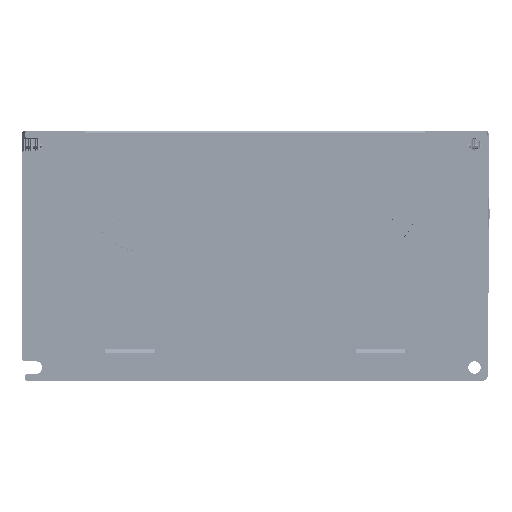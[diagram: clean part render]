
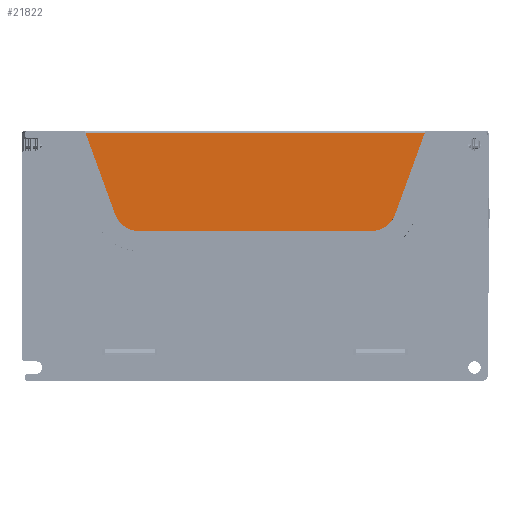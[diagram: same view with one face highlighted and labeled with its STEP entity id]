
A CAD part, left-side view. The second image highlights one B-rep face of the part: STEP entity #21822.
In plain terms, the highlighted planar face has unit normal (-1, 0, 0).
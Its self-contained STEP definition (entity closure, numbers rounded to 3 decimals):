
#1350 = AXIS2_PLACEMENT_3D ( 'NONE', #61251, #117383, #139992 ) ;
#6277 = ORIENTED_EDGE ( 'NONE', *, *, #214234, .F. ) ;
#7245 = LINE ( 'NONE', #222034, #40168 ) ;
#17075 = ORIENTED_EDGE ( 'NONE', *, *, #64008, .F. ) ;
#21822 = ADVANCED_FACE ( 'NONE', ( #39247 ), #210184, .F. ) ;
#22757 = CARTESIAN_POINT ( 'NONE',  ( -24.261, 35.421, 197.265 ) ) ;
#22921 = DIRECTION ( 'NONE',  ( 1., 0., 0. ) ) ;
#23731 = CARTESIAN_POINT ( 'NONE',  ( -24.261, 150.463, 165.609 ) ) ;
#25235 = DIRECTION ( 'NONE',  ( 0., -0.342, 0.94 ) ) ;
#25853 = LINE ( 'NONE', #22757, #242191 ) ;
#30016 = EDGE_CURVE ( 'NONE', #80588, #62297, #25853, .T. ) ;
#35792 = CARTESIAN_POINT ( 'NONE',  ( -24.261, 57.585, 155.609 ) ) ;
#39247 = FACE_OUTER_BOUND ( 'NONE', #60314, .T. ) ;
#40168 = VECTOR ( 'NONE', #161554, 1000. ) ;
#43529 = CARTESIAN_POINT ( 'NONE',  ( -24.261, 159.86, 162.189 ) ) ;
#50721 = DIRECTION ( 'NONE',  ( 0., -1., 0. ) ) ;
#60314 = EDGE_LOOP ( 'NONE', ( #79484, #81875, #6277, #17075, #137782, #168953 ) ) ;
#61251 = CARTESIAN_POINT ( 'NONE',  ( -24.261, 57.585, 165.609 ) ) ;
#62297 = VERTEX_POINT ( 'NONE', #216296 ) ;
#64008 = EDGE_CURVE ( 'NONE', #80588, #117209, #95784, .T. ) ;
#79484 = ORIENTED_EDGE ( 'NONE', *, *, #114987, .T. ) ;
#80588 = VERTEX_POINT ( 'NONE', #205460 ) ;
#81875 = ORIENTED_EDGE ( 'NONE', *, *, #237912, .F. ) ;
#83229 = VERTEX_POINT ( 'NONE', #152628 ) ;
#83428 = DIRECTION ( 'NONE',  ( 0., -1., 0. ) ) ;
#95784 = CIRCLE ( 'NONE', #1350, 10. ) ;
#97768 = DIRECTION ( 'NONE',  ( 0., 1., 0. ) ) ;
#98582 = CARTESIAN_POINT ( 'NONE',  ( -24.261, 104.024, 139.609 ) ) ;
#110933 = VECTOR ( 'NONE', #50721, 1000. ) ;
#114901 = VECTOR ( 'NONE', #193322, 1000. ) ;
#114987 = EDGE_CURVE ( 'NONE', #83229, #227724, #208145, .T. ) ;
#117209 = VERTEX_POINT ( 'NONE', #35792 ) ;
#117383 = DIRECTION ( 'NONE',  ( 1., 0., 0. ) ) ;
#120453 = AXIS2_PLACEMENT_3D ( 'NONE', #98582, #211806, #97768 ) ;
#137782 = ORIENTED_EDGE ( 'NONE', *, *, #30016, .T. ) ;
#138612 = VERTEX_POINT ( 'NONE', #147871 ) ;
#139992 = DIRECTION ( 'NONE',  ( 0., -1., 0. ) ) ;
#147871 = CARTESIAN_POINT ( 'NONE',  ( -24.261, 150.463, 155.609 ) ) ;
#152628 = CARTESIAN_POINT ( 'NONE',  ( -24.261, 171.66, 194.609 ) ) ;
#161138 = AXIS2_PLACEMENT_3D ( 'NONE', #23731, #22921, #83428 ) ;
#161554 = DIRECTION ( 'NONE',  ( 0., 1., 0. ) ) ;
#168953 = ORIENTED_EDGE ( 'NONE', *, *, #196550, .F. ) ;
#174003 = CARTESIAN_POINT ( 'NONE',  ( -24.261, 137.193, 99.911 ) ) ;
#193322 = DIRECTION ( 'NONE',  ( 0., -0.342, -0.94 ) ) ;
#196550 = EDGE_CURVE ( 'NONE', #83229, #62297, #231017, .T. ) ;
#205460 = CARTESIAN_POINT ( 'NONE',  ( -24.261, 48.188, 162.189 ) ) ;
#208145 = LINE ( 'NONE', #174003, #114901 ) ;
#210184 = PLANE ( 'NONE',  #120453 ) ;
#211806 = DIRECTION ( 'NONE',  ( 1., 0., 0. ) ) ;
#214234 = EDGE_CURVE ( 'NONE', #117209, #138612, #7245, .T. ) ;
#216296 = CARTESIAN_POINT ( 'NONE',  ( -24.261, 36.388, 194.609 ) ) ;
#219462 = CARTESIAN_POINT ( 'NONE',  ( -24.261, 104.024, 194.609 ) ) ;
#221030 = CIRCLE ( 'NONE', #161138, 10. ) ;
#222034 = CARTESIAN_POINT ( 'NONE',  ( -24.261, 104.024, 155.609 ) ) ;
#227724 = VERTEX_POINT ( 'NONE', #43529 ) ;
#231017 = LINE ( 'NONE', #219462, #110933 ) ;
#237912 = EDGE_CURVE ( 'NONE', #138612, #227724, #221030, .T. ) ;
#242191 = VECTOR ( 'NONE', #25235, 1000. ) ;
